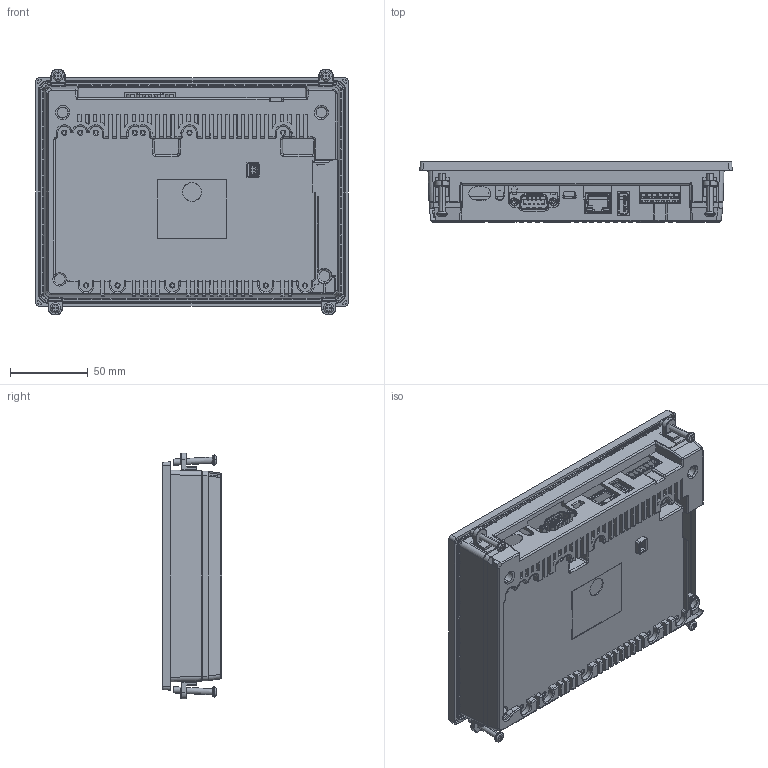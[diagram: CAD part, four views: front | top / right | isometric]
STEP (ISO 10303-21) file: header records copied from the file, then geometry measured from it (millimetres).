
FILE_DESCRIPTION(/* description */ (''),/* implementation_level */ '2;1');
FILE_NAME(/* name */ 'P5070',/* time_stamp */ '2021-06-10T15:15:10+08:00',/* author */ (''),/* organization */ (''),/* preprocessor_version */ 'ST-DEVELOPER v16.5',/* originating_system */ '',/* authorisation */ '');
FILE_SCHEMA (('CONFIG_CONTROL_DESIGN'));
Products named in the file (1): Document
Bounding box: 200.52 x 38.3 x 157.78 mm (x, y, z)
Surface area: 114527.3 mm2 (no closed solid volume)
Topology: 0 solids, 2779 shells, 2779 faces, 17267 edges, 19482 vertices
Faces by surface type: plane 1591, cylinder 734, bspline 454
Entity records: 160896 total; most frequent: CARTESIAN_POINT 81233, ORIENTED_EDGE 14816, EDGE_CURVE 14816, VERTEX_POINT 14816, B_SPLINE_CURVE_WITH_KNOTS 13899, EDGE_LOOP 2930, SHELL_BASED_SURFACE_MODEL 2779, OPEN_SHELL 2779
